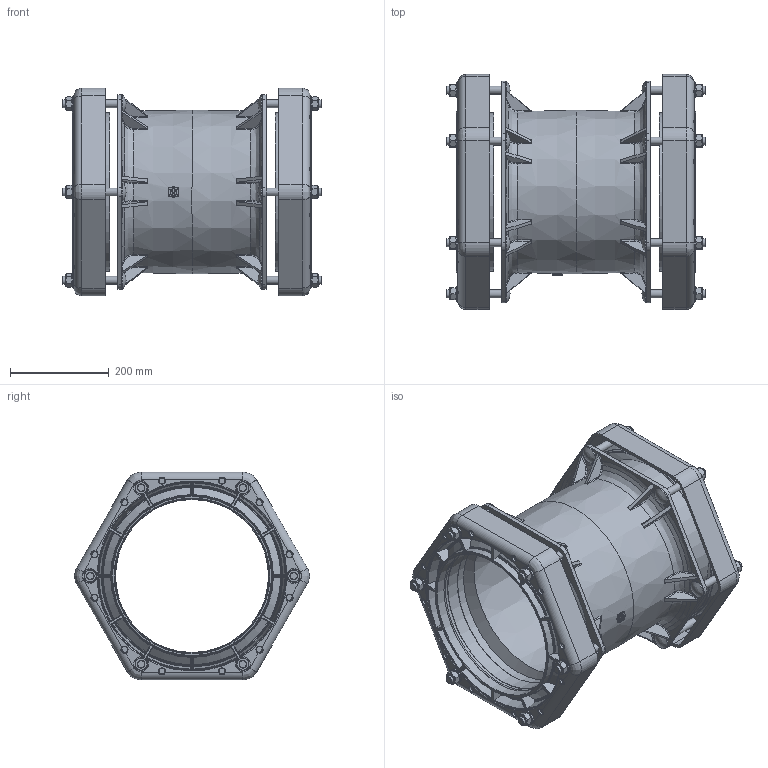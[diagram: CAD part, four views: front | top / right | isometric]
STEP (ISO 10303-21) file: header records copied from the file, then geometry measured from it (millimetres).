
FILE_DESCRIPTION((''),'2;1');
FILE_NAME('P:\Fastrack\54361_VIKING JOHNSON 3D\ULTRAGRIP\Component Parts\Components Built up\Coupling Assembly\250MM-UltraGrip-Coupling-Assembly.stp','2012-05-02T09:17:03',('dcole'),(''),'Autodesk Inventor 2008','Autodesk Inventor 2008','');
FILE_SCHEMA(('AUTOMOTIVE_DESIGN { 1 0 10303 214 1 1 1 1 }'));
Length unit declared in the file: millimetre
Products named in the file (1): 250MM-UltraGrip-Coupling-Assembly
Bounding box: 524 x 475.68 x 420.48 mm (x, y, z)
Volume: 6704124.3 mm3; surface area: 1982508.3 mm2
Topology: 1 solids, 1 shells, 2308 faces, 6497 edges, 4209 vertices
Faces by surface type: cone 949, plane 551, cylinder 393, bspline 360, torus 55
Full cylindrical faces by diameter (mm): 12.183 x24, 13 x1, 15.8 x24, 16 x12, 30 x12, 36 x12, 309.5 x2, 311.5 x4, 321.5 x2
Entity records: 109066 total; most frequent: CARTESIAN_POINT 49302, ORIENTED_EDGE 12534, DIRECTION 11433, EDGE_CURVE 6267, AXIS2_PLACEMENT_3D 4284, VERTEX_POINT 4139, VECTOR 2865, LINE 2865
